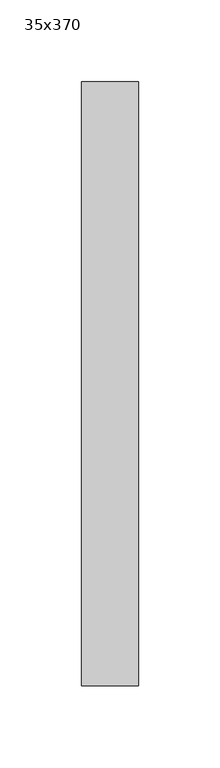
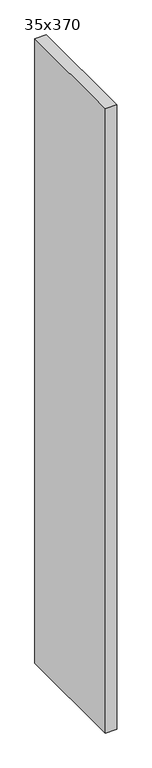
"""IFC4 building model written with IfcOpenShell, lengths in millimetres: column geometry, Poteau - Lamellé-collé - Espèces occidentales : 35x370."""

import ifcopenshell
import ifcopenshell.guid

model = None  # the IFC model being written
_history = None  # IfcOwnerHistory: only IFC2X3 demands one
_inside = {}  # id of a spatial element -> (the spatial element, [elements in it])
_under = {}  # id of a project, library or spatial element -> (it, [spatial elements below it])
_declared = {}  # id of a project -> (the project, [libraries it declares])
_typed = {}  # id of a type object -> (the type object, [elements of that type])
_made_of = {}  # id of a material, layer set ... -> (it, [elements and type objects made of it])


def new_model(schema):
    """Start an empty IFC model of exactly this schema.

    Asked for "IFC4X3", IfcOpenShell would pick the latest addendum, in which some entities
    have other attributes; the version numbers below select the first issue.
    IFC2X3 requires an IfcOwnerHistory on every rooted entity: one is made here for all.
    """
    global model, _history
    if schema == "IFC4X3":
        model = ifcopenshell.file(schema_version=(4, 3, 0, 0))
    else:
        model = ifcopenshell.file(schema=schema)
    _inside.clear()
    _under.clear()
    _declared.clear()
    _typed.clear()
    _made_of.clear()
    _history = None
    if model.schema == "IFC2X3":
        org = make("IfcOrganization", Name="unknown")
        user = make(
            "IfcPersonAndOrganization",
            ThePerson=make("IfcPerson", FamilyName="unknown"),
            TheOrganization=org,
        )
        app = make(
            "IfcApplication",
            ApplicationDeveloper=org,
            Version="unknown",
            ApplicationFullName="unknown",
            ApplicationIdentifier="unknown",
        )
        _history = make(
            "IfcOwnerHistory",
            OwningUser=user,
            OwningApplication=app,
            ChangeAction="ADDED",
            CreationDate=0,
        )
    return model


def make(cls, **values):
    """One entity of the class cls with the attributes given. An attribute that is None is left unset."""
    return model.create_entity(
        cls, **{name: value for name, value in values.items() if value is not None}
    )


def rooted(cls, **values):
    """An entity with a GlobalId (a new one), such as an element, a storey or a relation."""
    return make(cls, GlobalId=ifcopenshell.guid.new(), OwnerHistory=_history, **values)


def si_unit(unit_type, name, prefix=None):
    """IfcSIUnit, for example si_unit("LENGTHUNIT", "METRE", prefix="MILLI")."""
    return make("IfcSIUnit", UnitType=unit_type, Prefix=prefix, Name=name)


def assignment(units):
    """IfcUnitAssignment: the units of a project."""
    return None if units is None else make("IfcUnitAssignment", Units=units)


def point(xyz):
    """IfcCartesianPoint."""
    return None if xyz is None else make("IfcCartesianPoint", Coordinates=xyz)


def direction(xyz):
    """IfcDirection."""
    return None if xyz is None else make("IfcDirection", DirectionRatios=xyz)


def frame(location, z_axis=None, x_axis=None):
    """IfcAxis2Placement3D, a coordinate frame: its origin and axes. An axis left out is left unset."""
    return make(
        "IfcAxis2Placement3D",
        Location=point(location),
        Axis=direction(z_axis),
        RefDirection=direction(x_axis),
    )


def origin():
    """The frame at (0, 0, 0) with its axes left unset."""
    return frame((0.0, 0.0, 0.0))


def origin_with_axes():
    """The frame at (0, 0, 0) with the z axis (0, 0, 1) and the x axis (1, 0, 0) written out."""
    return frame((0.0, 0.0, 0.0), z_axis=(0.0, 0.0, 1.0), x_axis=(1.0, 0.0, 0.0))


def place(relative_to, where):
    """IfcLocalPlacement: puts the frame where relative to a parent placement (None: the world)."""
    return make(
        "IfcLocalPlacement", PlacementRelTo=relative_to, RelativePlacement=where
    )


def context(
    kind, dimensions, precision=None, world=None, true_north=None, identifier=None
):
    """IfcGeometricRepresentationContext, for example the 3D "Model" context."""
    return make(
        "IfcGeometricRepresentationContext",
        ContextIdentifier=identifier,
        ContextType=kind,
        CoordinateSpaceDimension=dimensions,
        Precision=precision,
        WorldCoordinateSystem=world,
        TrueNorth=true_north,
    )


def project(units=None, contexts=None):
    """IfcProject with its units and contexts."""
    return rooted(
        "IfcProject",
        Name="project",
        RepresentationContexts=contexts,
        UnitsInContext=assignment(units),
    )


def spatial(cls, under=None, at=None, **own):
    """A site, building, storey or space (cls), placed at a placement, below another one or the project."""
    s = rooted(cls, ObjectPlacement=at, **own)
    if under is not None:
        _under.setdefault(under.id(), (under, []))[1].append(s)
    return s


def polyline(points):
    """IfcPolyline through the points."""
    return make("IfcPolyline", Points=[point(p) for p in points])


def outline(outer, holes=None, kind="AREA"):
    """IfcArbitraryClosedProfileDef: a profile drawn as a closed curve; with holes, ...WithVoids."""
    if holes is None:
        return make("IfcArbitraryClosedProfileDef", ProfileType=kind, OuterCurve=outer)
    return make(
        "IfcArbitraryProfileDefWithVoids",
        ProfileType=kind,
        OuterCurve=outer,
        InnerCurves=holes,
    )


def extrude(swept, where, along, depth):
    """IfcExtrudedAreaSolid: the profile swept, set in the frame where, extruded along a direction by depth."""
    return make(
        "IfcExtrudedAreaSolid",
        SweptArea=swept,
        Position=where,
        ExtrudedDirection=direction(along),
        Depth=depth,
    )


def shape(context_of_items, identifier, shape_type, items):
    """IfcShapeRepresentation: the items that make up one representation, for example the "Body"."""
    return make(
        "IfcShapeRepresentation",
        ContextOfItems=context_of_items,
        RepresentationIdentifier=identifier,
        RepresentationType=shape_type,
        Items=items,
    )


def source(mapping_origin, context_of_items, identifier, shape_type, items):
    """IfcRepresentationMap: a shape defined once, which mapped items show again and again."""
    return make(
        "IfcRepresentationMap",
        MappingOrigin=mapping_origin,
        MappedRepresentation=shape(context_of_items, identifier, shape_type, items),
    )


def transform(
    local_origin,
    x_axis=None,
    y_axis=None,
    z_axis=None,
    scale=None,
    scale2=None,
    scale3=None,
    uniform=True,
):
    """IfcCartesianTransformationOperator3D, or its non-uniform kind. x_axis, y_axis, z_axis: its Axis1, 2, 3."""
    if uniform:
        return make(
            "IfcCartesianTransformationOperator3D",
            Axis1=direction(x_axis),
            Axis2=direction(y_axis),
            LocalOrigin=point(local_origin),
            Scale=scale,
            Axis3=direction(z_axis),
        )
    return make(
        "IfcCartesianTransformationOperator3DnonUniform",
        Axis1=direction(x_axis),
        Axis2=direction(y_axis),
        LocalOrigin=point(local_origin),
        Scale=scale,
        Axis3=direction(z_axis),
        Scale2=scale2,
        Scale3=scale3,
    )


def mapped(mapping_source, mapping_target):
    """IfcMappedItem: shows the shape of a source again, moved by a transform."""
    return make(
        "IfcMappedItem", MappingSource=mapping_source, MappingTarget=mapping_target
    )


def made_of(thing, what):
    """Note that an element or type object is made of a material, layer set ...; save() writes the relation."""
    if what is not None:
        _made_of.setdefault(what.id(), (what, []))[1].append(thing)
    return thing


def element(
    cls,
    number,
    at=None,
    inside=None,
    cuts=None,
    type_object=None,
    material=None,
    context=None,
    identifier="Body",
    shape_type=None,
    held_by="IfcProductDefinitionShape",
    body=None,
    shapes=None,
    **own,
):
    """One element of the class cls, such as IfcWall. Its Tag is "e" and its number.

    at: its placement. inside: the storey or other place that contains it. cuts: it is an
    opening in that element (IfcRelVoidsElement). A single representation is given by context,
    identifier, shape_type and body (its items); several are given by shapes. held_by: the class
    of the entity that holds the representations. save() writes the other relations.
    """
    e = rooted(cls, Tag="e%d" % number, ObjectPlacement=at, **own)
    if body is not None:
        shapes = [shape(context, identifier, shape_type, body)]
    if shapes is not None:
        e.Representation = make(held_by, Representations=shapes)
    if inside is not None:
        _inside.setdefault(inside.id(), (inside, []))[1].append(e)
    if cuts is not None:
        rooted(
            "IfcRelVoidsElement", RelatingBuildingElement=cuts, RelatedOpeningElement=e
        )
    if type_object is not None:
        _typed.setdefault(type_object.id(), (type_object, []))[1].append(e)
    return made_of(e, material)


def aggregate(whole, parts):
    """IfcRelAggregates: a whole, such as a stair, and the parts it consists of."""
    return rooted("IfcRelAggregates", RelatingObject=whole, RelatedObjects=parts)


def save(model, path):
    """Write the relations noted so far, then the file.

    IfcRelAggregates (storeys below a building ...), IfcRelContainedInSpatialStructure (elements
    in a storey), IfcRelDefinesByType, IfcRelAssociatesMaterial and IfcRelDeclares: one each for
    every whole, place, type object, material and project.
    """
    for whole, parts in _under.values():
        aggregate(whole, parts)
    for where, things in _inside.values():
        rooted(
            "IfcRelContainedInSpatialStructure",
            RelatedElements=things,
            RelatingStructure=where,
        )
    for kind, things in _typed.values():
        rooted("IfcRelDefinesByType", RelatedObjects=things, RelatingType=kind)
    for what, things in _made_of.values():
        rooted("IfcRelAssociatesMaterial", RelatedObjects=things, RelatingMaterial=what)
    for by, libraries in _declared.values():
        rooted("IfcRelDeclares", RelatingContext=by, RelatedDefinitions=libraries)
    model.write(path)


def column_35x370_20ffd7be(model_context):
    return source(origin(), model_context, "Body", "SweptSolid", [
        extrude(outline(polyline([(17.5, 185.0), (17.5, -185.0), (-17.5, -185.0), (-17.5, 185.0), (17.5, 185.0)])), origin_with_axes(), (0.0, 0.0, 1.0), 2000.0),
    ])


if __name__ == "__main__":
    model = new_model("IFC4")
    model_context = context("Model", 3, world=origin())
    ifc_project = project(units=[si_unit("LENGTHUNIT", "METRE", prefix="MILLI")], contexts=[model_context])
    site = spatial("IfcSite", under=ifc_project)
    building = spatial("IfcBuilding", under=site)
    placement = place(None, origin())
    column_35x370_shape = column_35x370_20ffd7be(model_context)
    element("IfcColumn", 1, ObjectType="Poteau - Lamellé-collé - Espèces occidentales : 35x370", at=placement, inside=building, context=model_context, shape_type="MappedRepresentation", body=[
        mapped(column_35x370_shape, transform((0.0, 0.0, 0.0), x_axis=(1.0, 0.0, 0.0), y_axis=(0.0, 1.0, 0.0), z_axis=(0.0, 0.0, 1.0))),
    ])
    save(model, "model.ifc")
